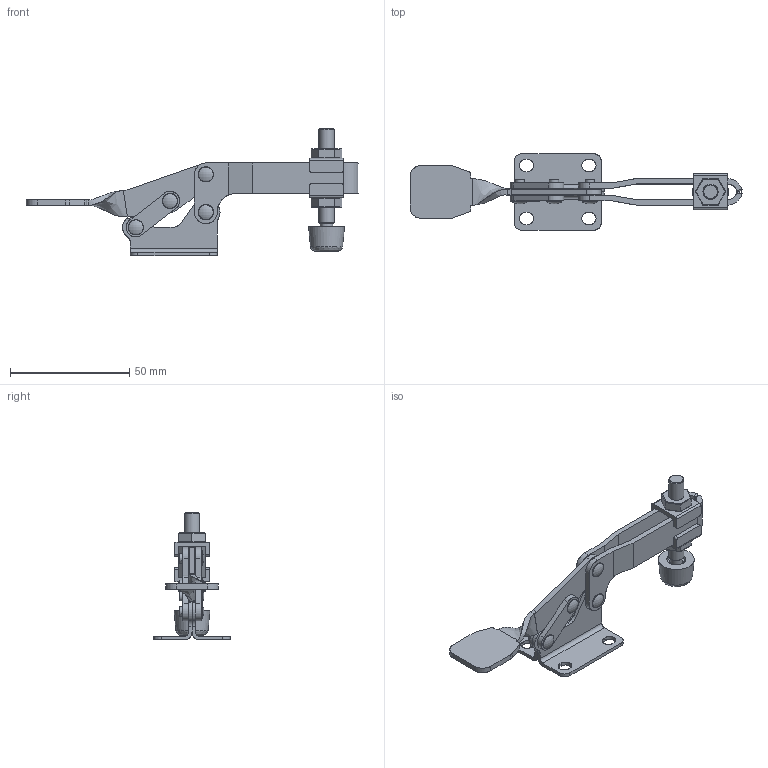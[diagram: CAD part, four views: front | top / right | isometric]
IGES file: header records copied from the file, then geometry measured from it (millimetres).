
Global section: file name: C:\T&M Tech\Carbide Tech\Work\200 Series\h-201\h-201.igs; native system: Unigraphics Version X V2.0; preprocessor: Unigraphics NX IGES V2.0; date: 20041216.010601; units: inch
Bounding box: 139.26 x 32.11 x 53.44 mm (x, y, z)
Surface area: 18783.6 mm2 (no closed solid volume)
Topology: 0 solids, 0 shells, 289 faces, 3844 edges, 3792 vertices
Faces by surface type: revolution 159, extrusion 126, bspline 2, offset 2
